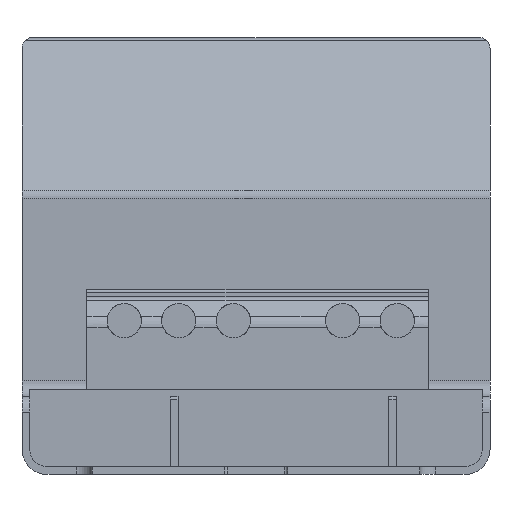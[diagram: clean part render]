
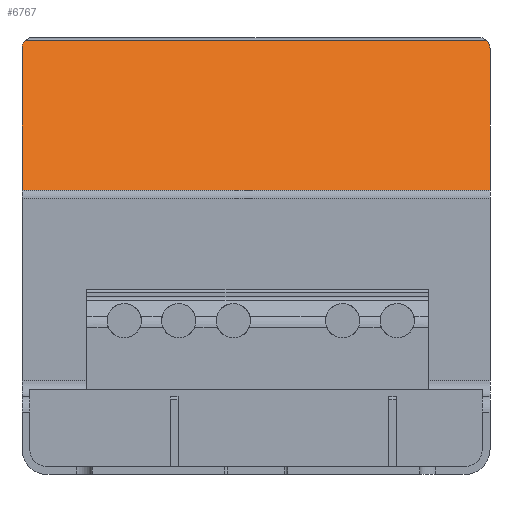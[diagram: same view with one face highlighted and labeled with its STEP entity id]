
A CAD part, front view. The second image highlights one B-rep face of the part: STEP entity #6767.
In plain terms, the highlighted planar face has unit normal (0, -0.707, 0.707).
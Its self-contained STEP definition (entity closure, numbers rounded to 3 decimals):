
#103=DIRECTION('',(0.,0.707,0.707));
#104=VECTOR('',#103,12.862);
#105=CARTESIAN_POINT('',(-15.,-150.495,18.205));
#106=LINE('',#105,#104);
#432=DIRECTION('',(0.,-0.707,-0.707));
#433=VECTOR('',#432,12.862);
#434=CARTESIAN_POINT('',(15.,-141.4,27.3));
#435=LINE('',#434,#433);
#3360=CARTESIAN_POINT('',(15.,-141.4,27.3));
#3361=CARTESIAN_POINT('',(15.,-141.22,27.48));
#3362=CARTESIAN_POINT('',(14.942,-141.052,27.648));
#3363=CARTESIAN_POINT('',(14.795,-140.905,27.795));
#3368=DIRECTION('',(1.,0.,0.));
#3369=VECTOR('',#3368,30.);
#3370=CARTESIAN_POINT('',(-15.,-150.495,18.205));
#3371=LINE('',#3370,#3369);
#3375=CARTESIAN_POINT('',(-14.795,-140.905,
27.795));
#3376=CARTESIAN_POINT('',(-14.942,-141.052,
27.648));
#3377=CARTESIAN_POINT('',(-15.,-141.22,27.48));
#3378=CARTESIAN_POINT('',(-15.,-141.4,27.3));
#3383=DIRECTION('',(1.,0.,0.));
#3384=VECTOR('',#3383,29.59);
#3385=CARTESIAN_POINT('',(-14.795,-140.905,
27.795));
#3386=LINE('',#3385,#3384);
#3994=VERTEX_POINT('',#3360);
#3995=VERTEX_POINT('',#3363);
#4008=VERTEX_POINT('',#3375);
#4009=VERTEX_POINT('',#3378);
#4010=CARTESIAN_POINT('',(-15.,-150.495,18.205));
#4011=VERTEX_POINT('',#4010);
#4014=CARTESIAN_POINT('',(15.,-150.495,18.205));
#4015=VERTEX_POINT('',#4014);
#6751=CARTESIAN_POINT('',(-15.,-150.7,18.));
#6752=DIRECTION('',(0.,-0.707,0.707));
#6753=DIRECTION('',(0.,0.707,0.707));
#6754=AXIS2_PLACEMENT_3D('',#6751,#6752,#6753);
#6755=PLANE('',#6754);
#6757=ORIENTED_EDGE('',*,*,#6756,.F.);
#6758=ORIENTED_EDGE('',*,*,#4615,.T.);
#6759=ORIENTED_EDGE('',*,*,#6745,.F.);
#6760=ORIENTED_EDGE('',*,*,#4427,.T.);
#6762=ORIENTED_EDGE('',*,*,#6761,.F.);
#6764=ORIENTED_EDGE('',*,*,#6763,.T.);
#6765=EDGE_LOOP('',(#6757,#6758,#6759,#6760,#6762,#6764));
#6766=FACE_OUTER_BOUND('',#6765,.F.);
#3364=B_SPLINE_CURVE_WITH_KNOTS('',3,(#3360,#3361,#3362,#3363),.UNSPECIFIED.,
.F.,.F.,(4,4),(0.,1.),.UNSPECIFIED.);
#3379=B_SPLINE_CURVE_WITH_KNOTS('',3,(#3375,#3376,#3377,#3378),.UNSPECIFIED.,
.F.,.F.,(4,4),(0.,1.),.UNSPECIFIED.);
#4427=EDGE_CURVE('',#4011,#4009,#106,.T.);
#4615=EDGE_CURVE('',#3994,#4015,#435,.T.);
#6745=EDGE_CURVE('',#4011,#4015,#3371,.T.);
#6756=EDGE_CURVE('',#3994,#3995,#3364,.T.);
#6761=EDGE_CURVE('',#4008,#4009,#3379,.T.);
#6763=EDGE_CURVE('',#4008,#3995,#3386,.T.);
#6767=ADVANCED_FACE('',(#6766),#6755,.T.);
